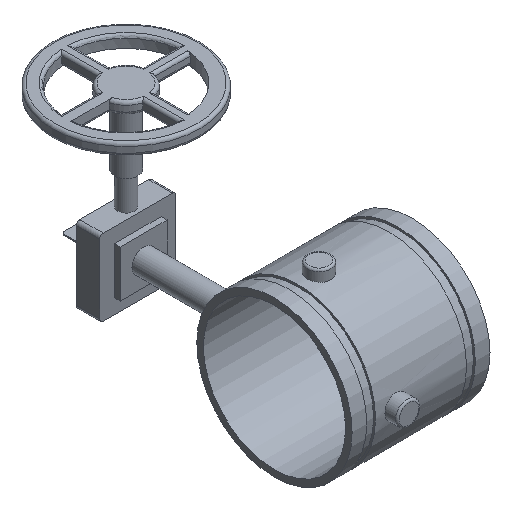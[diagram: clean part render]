
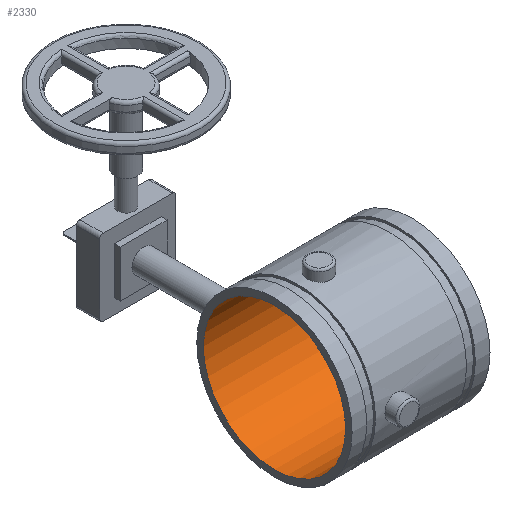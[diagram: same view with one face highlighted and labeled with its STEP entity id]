
A CAD part, isometric view. The second image highlights one B-rep face of the part: STEP entity #2330.
In plain terms, the highlighted cylindrical face has radius 77.025 mm (diameter 154.051 mm), a full revolution.
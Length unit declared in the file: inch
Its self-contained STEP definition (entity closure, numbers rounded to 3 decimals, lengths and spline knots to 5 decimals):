
#80=CYLINDRICAL_SURFACE('',#2555,3.0325);
#193=CIRCLE('',#2553,3.0325);
#194=CIRCLE('',#2554,3.0325);
#195=CIRCLE('',#2556,3.0325);
#196=CIRCLE('',#2557,3.0325);
#366=FACE_OUTER_BOUND('',#506,.T.);
#506=EDGE_LOOP('',(#1922,#1923,#1924,#1925,#1926,#1927));
#682=LINE('',#4300,#861);
#861=VECTOR('',#3125,3.0325);
#1071=VERTEX_POINT('',#4294);
#1072=VERTEX_POINT('',#4295);
#1073=VERTEX_POINT('',#4299);
#1074=VERTEX_POINT('',#4301);
#1370=EDGE_CURVE('',#1071,#1072,#193,.T.);
#1371=EDGE_CURVE('',#1072,#1071,#194,.T.);
#1372=EDGE_CURVE('',#1072,#1073,#682,.T.);
#1373=EDGE_CURVE('',#1074,#1073,#195,.T.);
#1374=EDGE_CURVE('',#1073,#1074,#196,.T.);
#1922=ORIENTED_EDGE('',*,*,#1370,.T.);
#1923=ORIENTED_EDGE('',*,*,#1372,.T.);
#1924=ORIENTED_EDGE('',*,*,#1373,.F.);
#1925=ORIENTED_EDGE('',*,*,#1374,.F.);
#1926=ORIENTED_EDGE('',*,*,#1372,.F.);
#1927=ORIENTED_EDGE('',*,*,#1371,.T.);
#2330=ADVANCED_FACE('',(#366),#80,.F.);
#2553=AXIS2_PLACEMENT_3D('',#4296,#3119,#3120);
#2554=AXIS2_PLACEMENT_3D('',#4297,#3121,#3122);
#2555=AXIS2_PLACEMENT_3D('',#4298,#3123,#3124);
#2556=AXIS2_PLACEMENT_3D('',#4302,#3126,#3127);
#2557=AXIS2_PLACEMENT_3D('',#4303,#3128,#3129);
#3119=DIRECTION('center_axis',(1.,0.,0.));
#3120=DIRECTION('ref_axis',(0.,0.,1.));
#3121=DIRECTION('center_axis',(1.,0.,0.));
#3122=DIRECTION('ref_axis',(0.,0.,1.));
#3123=DIRECTION('center_axis',(1.,0.,0.));
#3124=DIRECTION('ref_axis',(0.,1.,0.));
#3125=DIRECTION('',(-1.,0.,0.));
#3126=DIRECTION('center_axis',(1.,0.,0.));
#3127=DIRECTION('ref_axis',(0.,0.,1.));
#3128=DIRECTION('center_axis',(1.,0.,0.));
#3129=DIRECTION('ref_axis',(0.,0.,1.));
#4294=CARTESIAN_POINT('',(2.94,0.,3.0325));
#4295=CARTESIAN_POINT('',(2.94,-3.0325,0.));
#4296=CARTESIAN_POINT('Origin',(2.94,0.,0.));
#4297=CARTESIAN_POINT('Origin',(2.94,0.,0.));
#4298=CARTESIAN_POINT('Origin',(0.,0.,
0.));
#4299=CARTESIAN_POINT('',(-2.94,-3.0325,0.));
#4300=CARTESIAN_POINT('',(0.,-3.0325,0.));
#4301=CARTESIAN_POINT('',(-2.94,3.0325,0.));
#4302=CARTESIAN_POINT('Origin',(-2.94,0.,0.));
#4303=CARTESIAN_POINT('Origin',(-2.94,0.,0.));
